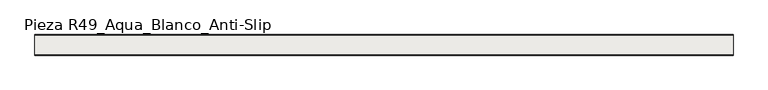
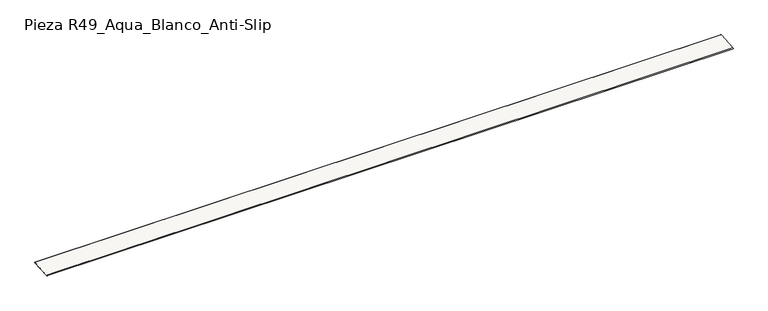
"""IFC4 building model written with IfcOpenShell, lengths in millimetres: slab geometry, ROSA GRES_R49 : Pieza R49_Aqua_Blanco_Anti-Slip."""

from ifc_helpers import new_model, si_unit, point, frame, frame_2d, origin, place, context, project, spatial, polyline, circle_curve, trimmed, segment, composite_curve, outline, extrude, source, transform, mapped, element, save


def pieza_r49_aqua_blanco_anti_slip_00d05688(model_context):
    return source(origin(), model_context, "Body", "SweptSolid", [
        extrude(outline(composite_curve([segment(polyline([(70.1539646, 196.3880826), (70.0315861, 197.89159)]), True, "CONTINUOUS"), segment(trimmed(circle_curve(frame_2d((77.8482549, 197.189121)), 7.8481701), [point((70.0315861, 197.89159))], [point((76.6234074, 204.9411222))], False, "CARTESIAN"), True, "CONTINUOUS"), segment(polyline([(76.6234074, 204.9411222), (364.6716123, 228.3869063)]), True, "CONTINUOUS"), segment(trimmed(circle_curve(frame_2d((364.7862135, 226.9789488)), 1.4126139), [point((364.6716123, 228.3869063))], [point((365.5494776, 228.1676059))], False, "CARTESIAN"), True, "CONTINUOUS"), segment(polyline([(365.5494776, 228.1676059), (366.1749837, 220.4828167), (70.1539646, 196.3880826)]), True, "CONTINUOUS")], self_intersect=False)), frame((0.0, 0.0, 0.0), z_axis=(1.0, 0.0, 0.0), x_axis=(0.0, 1.0, 0.0)), (0.0, 0.0, 1.0), 9999.435011),
    ])


if __name__ == "__main__":
    model = new_model("IFC4")
    model_context = context("Model", 3, world=origin())
    ifc_project = project(units=[si_unit("LENGTHUNIT", "METRE", prefix="MILLI")], contexts=[model_context])
    site = spatial("IfcSite", under=ifc_project)
    building = spatial("IfcBuilding", under=site)
    placement = place(None, origin())
    pieza_r49_aqua_blanco_anti_slip_shape = pieza_r49_aqua_blanco_anti_slip_00d05688(model_context)
    element("IfcSlab", 1, ObjectType="ROSA GRES_R49 : Pieza R49_Aqua_Blanco_Anti-Slip", at=placement, inside=building, context=model_context, shape_type="MappedRepresentation", body=[
        mapped(pieza_r49_aqua_blanco_anti_slip_shape, transform((0.0, 0.0, 0.0), x_axis=(1.0, 0.0, 0.0), y_axis=(0.0, 1.0, 0.0), z_axis=(0.0, 0.0, 1.0))),
    ])
    save(model, "model.ifc")
